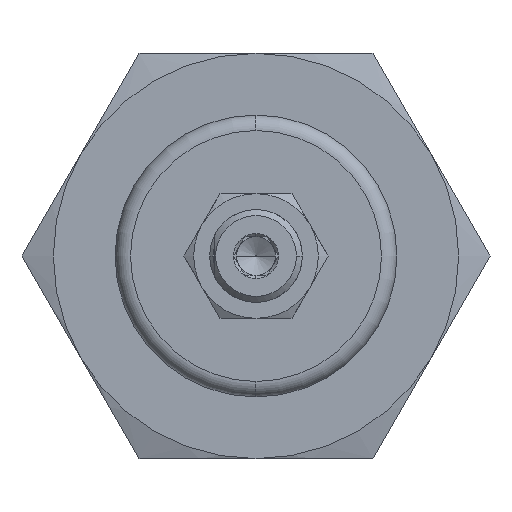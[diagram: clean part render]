
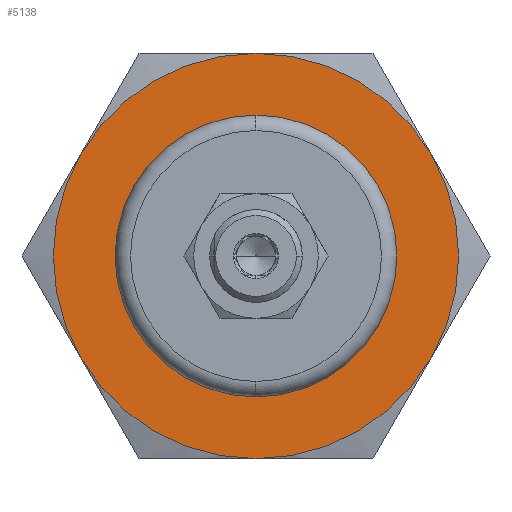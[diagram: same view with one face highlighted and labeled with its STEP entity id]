
A CAD part, left-side view. The second image highlights one B-rep face of the part: STEP entity #5138.
In plain terms, the highlighted planar face has unit normal (-1, 0, 0).
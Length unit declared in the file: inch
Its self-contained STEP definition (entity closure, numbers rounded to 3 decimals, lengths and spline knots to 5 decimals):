
#1860=CARTESIAN_POINT('',(-0.63,0.565,0.));
#1861=VERTEX_POINT('',#1860);
#1878=CARTESIAN_POINT('',(-0.63,-0.565,0.));
#1879=VERTEX_POINT('',#1878);
#1886=CARTESIAN_POINT('',(-0.63,0.0,0.));
#1887=DIRECTION('',(1.0,0.0,0.0));
#1888=DIRECTION('',(0.0,1.0,0.0));
#1889=AXIS2_PLACEMENT_3D('',#1886,#1887,#1888);
#1890=CIRCLE('',#1889,0.565);
#1891=EDGE_CURVE('',#1861,#1879,#1890,.T.);
#5067=CARTESIAN_POINT('',(-0.63,0.,0.));
#5068=DIRECTION('',(-1.0,0.0,0.0));
#5069=DIRECTION('',(0.0,0.0,1.0));
#5070=AXIS2_PLACEMENT_3D('',#5067,#5068,#5069);
#5071=PLANE('',#5070);
#5072=CARTESIAN_POINT('',(-0.63,0.70365,-0.40625));
#5073=VERTEX_POINT('',#5072);
#5074=CARTESIAN_POINT('',(-0.63,0.0,-0.8125));
#5075=VERTEX_POINT('',#5074);
#5076=CARTESIAN_POINT('',(-0.63,0.0,0.));
#5077=DIRECTION('',(-1.0,0.0,0.0));
#5078=DIRECTION('',(0.0,0.0,1.0));
#5079=AXIS2_PLACEMENT_3D('',#5076,#5077,#5078);
#5080=CIRCLE('',#5079,0.8125);
#5081=EDGE_CURVE('',#5073,#5075,#5080,.T.);
#5082=ORIENTED_EDGE('',*,*,#5081,.T.);
#5083=CARTESIAN_POINT('',(-0.63,-0.70365,-0.40625));
#5084=VERTEX_POINT('',#5083);
#5085=CARTESIAN_POINT('',(-0.63,0.0,0.));
#5086=DIRECTION('',(-1.0,0.0,0.0));
#5087=DIRECTION('',(0.0,0.0,1.0));
#5088=AXIS2_PLACEMENT_3D('',#5085,#5086,#5087);
#5089=CIRCLE('',#5088,0.8125);
#5090=EDGE_CURVE('',#5075,#5084,#5089,.T.);
#5091=ORIENTED_EDGE('',*,*,#5090,.T.);
#5092=CARTESIAN_POINT('',(-0.63,-0.70365,0.40625));
#5093=VERTEX_POINT('',#5092);
#5094=CARTESIAN_POINT('',(-0.63,0.0,0.));
#5095=DIRECTION('',(-1.0,0.0,0.0));
#5096=DIRECTION('',(0.0,0.0,1.0));
#5097=AXIS2_PLACEMENT_3D('',#5094,#5095,#5096);
#5098=CIRCLE('',#5097,0.8125);
#5099=EDGE_CURVE('',#5084,#5093,#5098,.T.);
#5100=ORIENTED_EDGE('',*,*,#5099,.T.);
#5101=CARTESIAN_POINT('',(-0.63,0.0,0.8125));
#5102=VERTEX_POINT('',#5101);
#5103=CARTESIAN_POINT('',(-0.63,0.0,0.));
#5104=DIRECTION('',(-1.0,0.0,0.0));
#5105=DIRECTION('',(0.0,0.0,1.0));
#5106=AXIS2_PLACEMENT_3D('',#5103,#5104,#5105);
#5107=CIRCLE('',#5106,0.8125);
#5108=EDGE_CURVE('',#5093,#5102,#5107,.T.);
#5109=ORIENTED_EDGE('',*,*,#5108,.T.);
#5110=CARTESIAN_POINT('',(-0.63,0.70365,0.40625));
#5111=VERTEX_POINT('',#5110);
#5112=CARTESIAN_POINT('',(-0.63,0.0,0.));
#5113=DIRECTION('',(-1.0,0.0,0.0));
#5114=DIRECTION('',(0.0,0.0,1.0));
#5115=AXIS2_PLACEMENT_3D('',#5112,#5113,#5114);
#5116=CIRCLE('',#5115,0.8125);
#5117=EDGE_CURVE('',#5102,#5111,#5116,.T.);
#5118=ORIENTED_EDGE('',*,*,#5117,.T.);
#5119=CARTESIAN_POINT('',(-0.63,0.0,0.));
#5120=DIRECTION('',(-1.0,0.0,0.0));
#5121=DIRECTION('',(0.0,0.0,1.0));
#5122=AXIS2_PLACEMENT_3D('',#5119,#5120,#5121);
#5123=CIRCLE('',#5122,0.8125);
#5124=EDGE_CURVE('',#5111,#5073,#5123,.T.);
#5125=ORIENTED_EDGE('',*,*,#5124,.T.);
#5126=EDGE_LOOP('',(#5082,#5091,#5100,#5109,#5118,#5125));
#5127=FACE_OUTER_BOUND('',#5126,.T.);
#5128=ORIENTED_EDGE('',*,*,#1891,.T.);
#5129=CARTESIAN_POINT('',(-0.63,0.0,0.));
#5130=DIRECTION('',(1.0,0.0,0.0));
#5131=DIRECTION('',(0.0,1.0,0.0));
#5132=AXIS2_PLACEMENT_3D('',#5129,#5130,#5131);
#5133=CIRCLE('',#5132,0.565);
#5134=EDGE_CURVE('',#1879,#1861,#5133,.T.);
#5135=ORIENTED_EDGE('',*,*,#5134,.T.);
#5136=EDGE_LOOP('',(#5128,#5135));
#5137=FACE_BOUND('',#5136,.T.);
#5138=ADVANCED_FACE('',(#5127,#5137),#5071,.T.);
